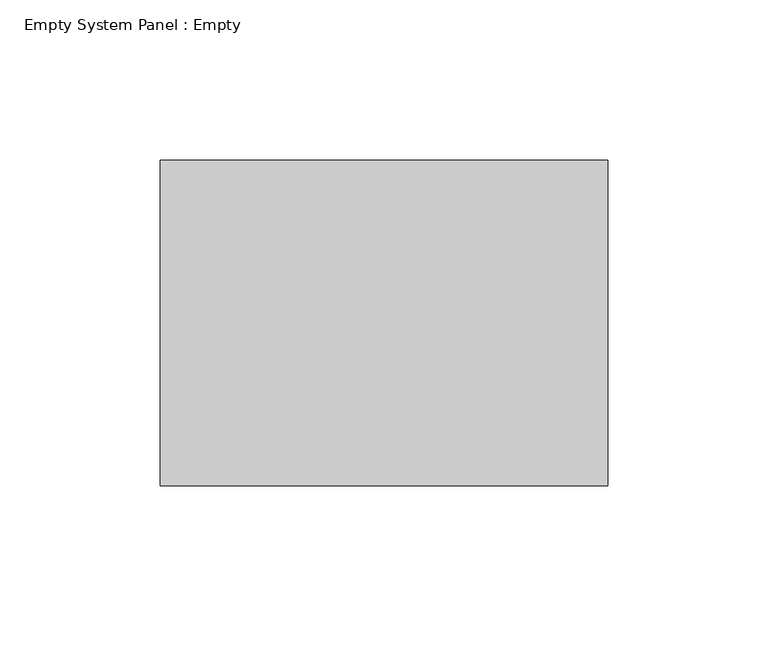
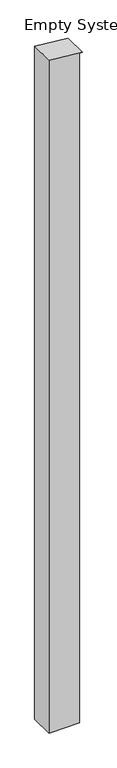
"""IFC4 building model written with IfcOpenShell, lengths in millimetres: plate geometry, Empty System Panel : Empty."""

from ifc_helpers import new_model, si_unit, frame, origin, place, context, project, spatial, polyline, outline, extrude, source, transform, mapped, element, save


def empty_system_panel_empty_26511f66(model_context):
    return source(origin(), model_context, "Body", "SweptSolid", [
        extrude(outline(polyline([(0.0, -69.85), (0.0, 57.15), (2945.9046313, 57.15), (2945.9046313, 69.85), (2961.5298213, -69.85), (0.0, -69.85)])), frame((0.0, -50.8, 0.0), z_axis=(0.0, 1.0, 0.0), x_axis=(0.0, 0.0, 1.0)), (0.0, 0.0, 1.0), 101.6),
    ])


if __name__ == "__main__":
    model = new_model("IFC4")
    model_context = context("Model", 3, world=origin())
    ifc_project = project(units=[si_unit("LENGTHUNIT", "METRE", prefix="MILLI")], contexts=[model_context])
    site = spatial("IfcSite", under=ifc_project)
    building = spatial("IfcBuilding", under=site)
    placement = place(None, origin())
    empty_system_panel_empty_shape = empty_system_panel_empty_26511f66(model_context)
    element("IfcPlate", 1, ObjectType="Empty System Panel : Empty", at=placement, inside=building, context=model_context, shape_type="MappedRepresentation", body=[
        mapped(empty_system_panel_empty_shape, transform((0.0, 0.0, 0.0), x_axis=(1.0, 0.0, 0.0), y_axis=(0.0, 1.0, 0.0), z_axis=(0.0, 0.0, 1.0))),
    ])
    save(model, "model.ifc")
